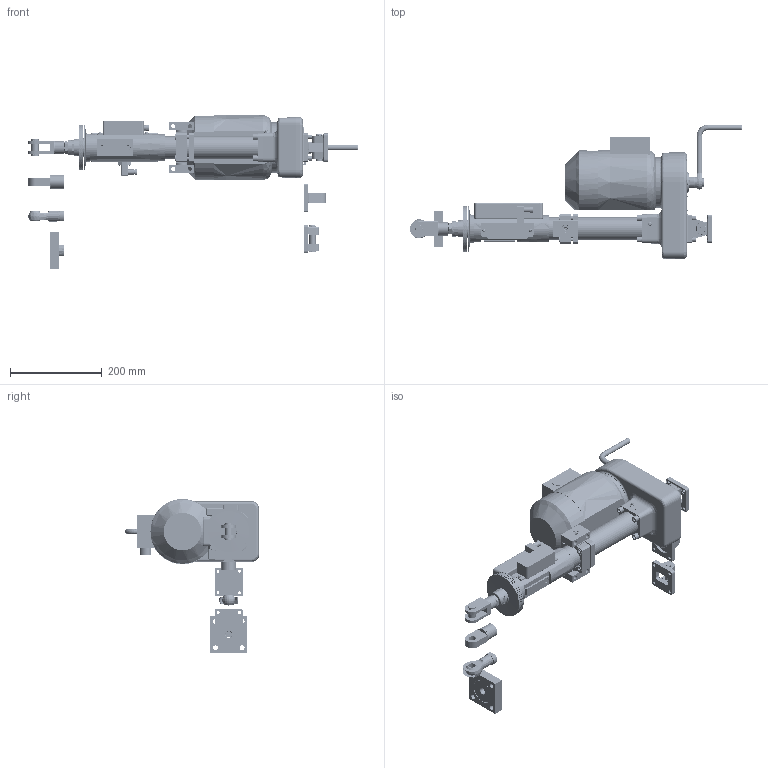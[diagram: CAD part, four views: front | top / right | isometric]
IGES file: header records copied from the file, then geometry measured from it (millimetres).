
Start section: SolidWorks IGES file using analytic representation for surfaces
Global section: file name: E:\Ïðîåêòíàÿ äîêóìåíòàöèÿ\ïðîåêòû\â ðàçðàáîòêå\êóçíåöîâ\ÌÝÏ-Ñ1\Ðåêëàìà\Ñ1-200.IGS; native system: SolidWorks 2012; preprocessor: SolidWorks 2012; author: Êóçíåöîâ; date: 131211.140328; units: millimetre
Bounding box: 725.12 x 293.4 x 336 mm (x, y, z)
Surface area: 731162.4 mm2 (no closed solid volume)
Topology: 0 solids, 0 shells, 1967 faces, 38357 edges, 38345 vertices
Faces by surface type: revolution 1049, bspline 918
